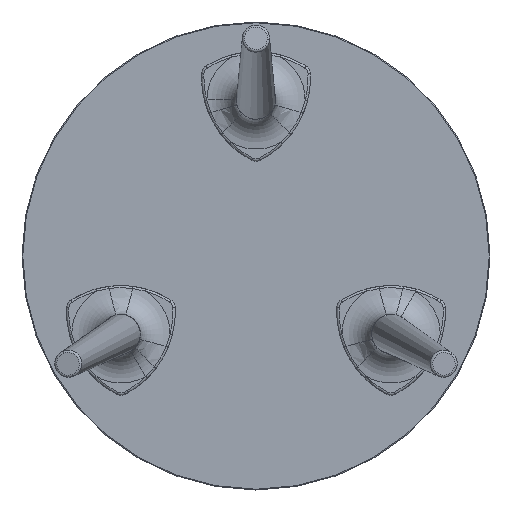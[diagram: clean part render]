
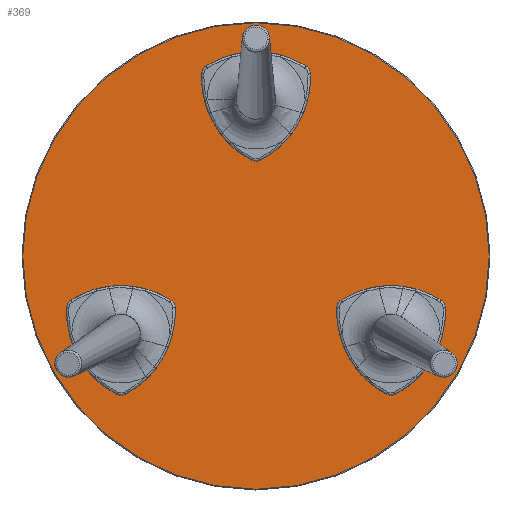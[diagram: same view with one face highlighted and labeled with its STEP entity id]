
A CAD part, top view. The second image highlights one B-rep face of the part: STEP entity #369.
In plain terms, the highlighted planar face has unit normal (0, 0, 1).
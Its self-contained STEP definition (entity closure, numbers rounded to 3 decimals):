
#14 = DIRECTION ( 'NONE',  ( 1., 0., 0. ) ) ;
#83 = VERTEX_POINT ( 'NONE', #2129 ) ;
#111 = DIRECTION ( 'NONE',  ( 1., 0., 0. ) ) ;
#169 = PLANE ( 'NONE',  #1835 ) ;
#335 = AXIS2_PLACEMENT_3D ( 'NONE', #2805, #1392, #14 ) ;
#369 = ADVANCED_FACE ( 'NONE', ( #3009 ), #169, .T. ) ;
#372 = EDGE_LOOP ( 'NONE', ( #1377, #875 ) ) ;
#440 = AXIS2_PLACEMENT_3D ( 'NONE', #2895, #1478, #111 ) ;
#736 = DIRECTION ( 'NONE',  ( 1., 0., 0. ) ) ;
#875 = ORIENTED_EDGE ( 'NONE', *, *, #2106, .T. ) ;
#1131 = CARTESIAN_POINT ( 'NONE',  ( 0., 0., 12. ) ) ;
#1265 = CARTESIAN_POINT ( 'NONE',  ( 299., 0., 12. ) ) ;
#1377 = ORIENTED_EDGE ( 'NONE', *, *, #1763, .T. ) ;
#1392 = DIRECTION ( 'NONE',  ( 0., 0., 1. ) ) ;
#1478 = DIRECTION ( 'NONE',  ( 0., 0., 1. ) ) ;
#1479 = CIRCLE ( 'NONE', #440, 299. ) ;
#1763 = EDGE_CURVE ( 'NONE', #2864, #83, #1770, .T. ) ;
#1770 = CIRCLE ( 'NONE', #335, 299. ) ;
#1835 = AXIS2_PLACEMENT_3D ( 'NONE', #1131, #1943, #736 ) ;
#1943 = DIRECTION ( 'NONE',  ( 0., 0., 1. ) ) ;
#2106 = EDGE_CURVE ( 'NONE', #83, #2864, #1479, .T. ) ;
#2129 = CARTESIAN_POINT ( 'NONE',  ( -299., 0., 12. ) ) ;
#2805 = CARTESIAN_POINT ( 'NONE',  ( 0., 0., 12. ) ) ;
#2864 = VERTEX_POINT ( 'NONE', #1265 ) ;
#2895 = CARTESIAN_POINT ( 'NONE',  ( 0., 0., 12. ) ) ;
#3009 = FACE_OUTER_BOUND ( 'NONE', #372, .T. ) ;
